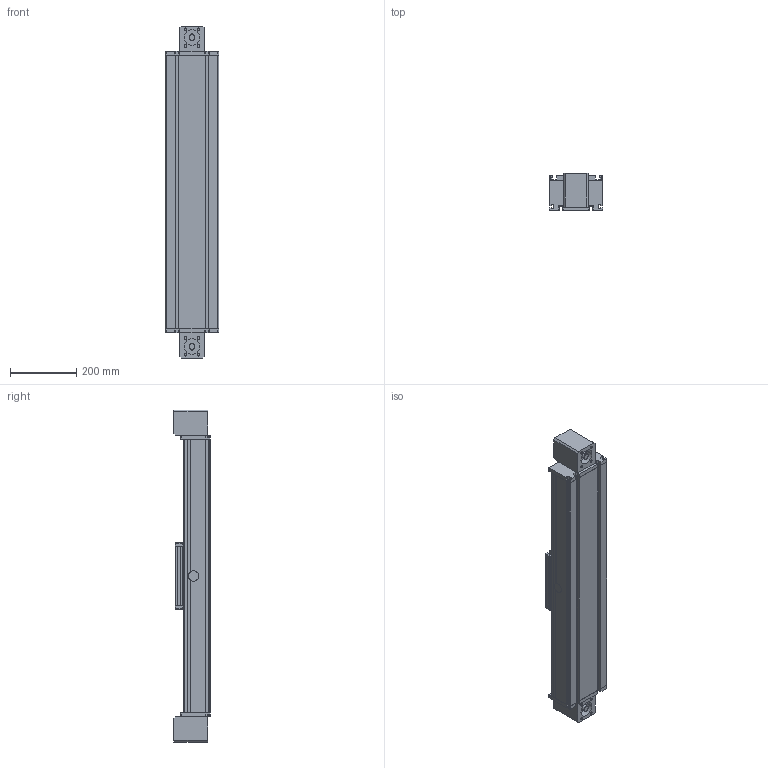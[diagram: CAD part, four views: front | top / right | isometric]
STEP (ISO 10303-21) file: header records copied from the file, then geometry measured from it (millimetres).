
FILE_DESCRIPTION (( 'STEP AP214' ), '1' );
FILE_NAME ('DLVZ160.STEP', '2022-07-22T09:58:18', ( '' ), ( '' ), 'SwSTEP 2.0', 'SolidWorks 2020', '' );
FILE_SCHEMA (( 'AUTOMOTIVE_DESIGN' ));
Length unit declared in the file: millimetre
Products named in the file (5): DLVZ160; profile^DLVZ160_standard; carriage^DLVZ160_carriage version 0; end plate^DLVZ160_standard; timing belt reverse unit^DLVZ160_2x short shaft
Assembly tree (6 placements, depth 2):
  DLVZ160
    profile^DLVZ160_standard
    carriage^DLVZ160_carriage version 0
    end plate^DLVZ160_standard  x2
    timing belt reverse unit^DLVZ160_2x short shaft  x2
Bounding box: 160.2 x 110.5 x 1000 mm (x, y, z)
Volume: 7803805.6 mm3; surface area: 1617154.8 mm2
Topology: 14 solids, 14 shells, 460 faces, 1188 edges, 776 vertices
Faces by surface type: plane 327, cylinder 117, sphere 8, cone 8
Entity records: 12473 total; most frequent: CARTESIAN_POINT 2101, ORIENTED_EDGE 1918, DIRECTION 1861, EDGE_CURVE 959, VECTOR 793, LINE 793, VERTEX_POINT 630, AXIS2_PLACEMENT_3D 534
